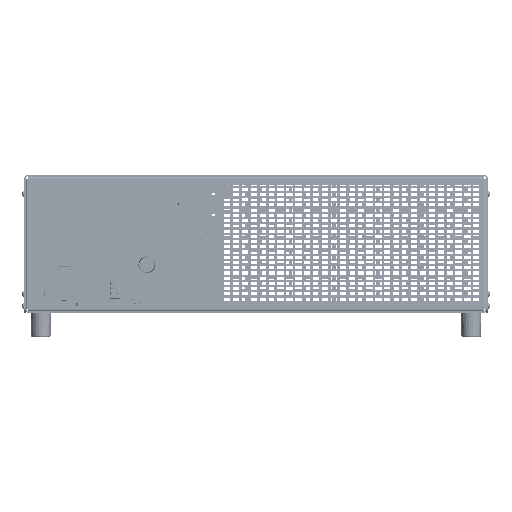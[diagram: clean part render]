
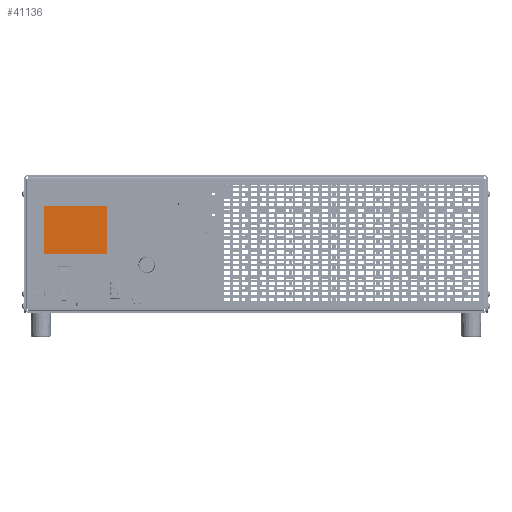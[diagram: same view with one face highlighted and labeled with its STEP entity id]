
A CAD part, front view. The second image highlights one B-rep face of the part: STEP entity #41136.
In plain terms, the highlighted planar face has unit normal (0, -1, 0).
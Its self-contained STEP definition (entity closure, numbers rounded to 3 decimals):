
#41136=ADVANCED_FACE('',(#85407),#85408,.T.);
#85407=FACE_OUTER_BOUND('',#161198,.T.);
#85408=PLANE('',#161199);
#161198=EDGE_LOOP('',(#270308,#270309,#270310,#270311));
#161199=AXIS2_PLACEMENT_3D('',#270312,#270313,#270314);
#270308=ORIENTED_EDGE('',*,*,#334246,.F.);
#270309=ORIENTED_EDGE('',*,*,#334259,.F.);
#270310=ORIENTED_EDGE('',*,*,#334255,.F.);
#270311=ORIENTED_EDGE('',*,*,#334251,.F.);
#270312=CARTESIAN_POINT('',(43.14,-2.2,79.072));
#270313=DIRECTION('',(0.0,-1.0,0.));
#270314=DIRECTION('',(1.0,0.0,0.0));
#334246=EDGE_CURVE('',#410295,#410296,#410297,.T.);
#334251=EDGE_CURVE('',#410296,#410304,#410305,.T.);
#334255=EDGE_CURVE('',#410304,#410310,#410311,.T.);
#334259=EDGE_CURVE('',#410310,#410295,#410316,.T.);
#410295=VERTEX_POINT('',#521730);
#410296=VERTEX_POINT('',#521731);
#410297=LINE('',#521732,#521733);
#410304=VERTEX_POINT('',#521743);
#410305=LINE('',#521744,#521745);
#410310=VERTEX_POINT('',#521752);
#410311=LINE('',#521753,#521754);
#410316=LINE('',#521761,#521762);
#521730=CARTESIAN_POINT('',(12.84,-2.2,102.172));
#521731=CARTESIAN_POINT('',(73.44,-2.2,102.172));
#521732=CARTESIAN_POINT('',(12.84,-2.2,102.172));
#521733=VECTOR('',#585803,1.0);
#521743=CARTESIAN_POINT('',(73.44,-2.2,55.972));
#521744=CARTESIAN_POINT('',(73.44,-2.2,102.172));
#521745=VECTOR('',#585807,1.0);
#521752=CARTESIAN_POINT('',(12.84,-2.2,55.972));
#521753=CARTESIAN_POINT('',(73.44,-2.2,55.972));
#521754=VECTOR('',#585810,1.0);
#521761=CARTESIAN_POINT('',(12.84,-2.2,55.972));
#521762=VECTOR('',#585813,1.0);
#585803=DIRECTION('',(1.0,0.0,0.0));
#585807=DIRECTION('',(0.0,0.,-1.0));
#585810=DIRECTION('',(-1.0,0.0,0.0));
#585813=DIRECTION('',(0.0,0.,1.0));
